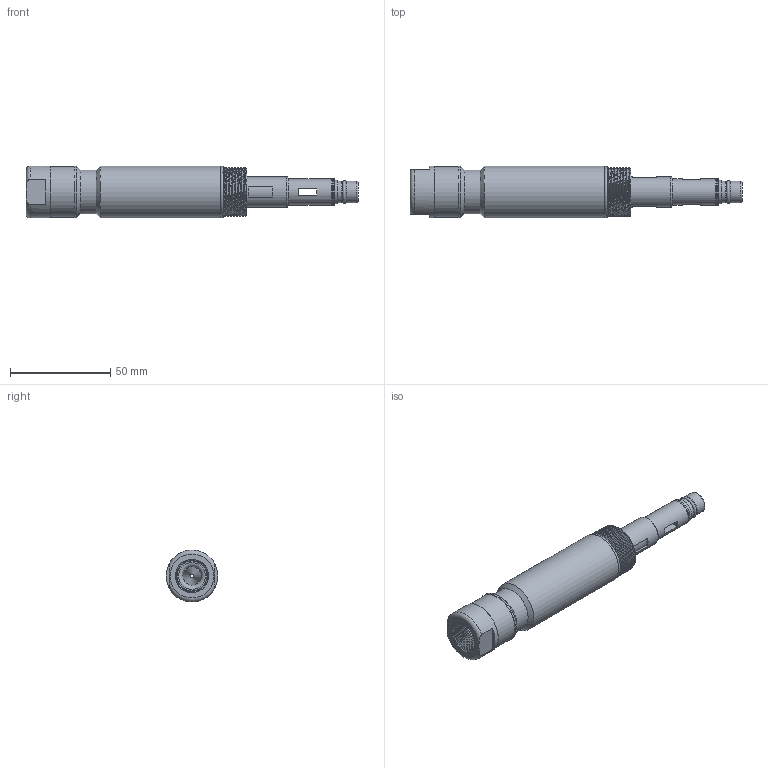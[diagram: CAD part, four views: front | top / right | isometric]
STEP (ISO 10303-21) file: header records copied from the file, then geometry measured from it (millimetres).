
FILE_DESCRIPTION( ( 'STEP AP203' ), '1' );
FILE_NAME( 'D:/撲啗紫賊-02/撲啗紫賊-02/project-06/Vacuum Cartridge-3D/VC303P.stp', '2007-05-25T06:07:58', ( ' ' ), ( ' ' ), 'XStep 1.0', ' ', ' ' );
FILE_SCHEMA( ( 'CONFIG_CONTROL_DESIGN) ( )' ) );
Length unit declared in the file: metre
Products named in the file (2): 1; 2
Bounding box: 165.6 x 25.9 x 25.9 mm (x, y, z)
Volume: 46194.7 mm3; surface area: 25978.7 mm2
Topology: 2 solids, 2 shells, 102 faces, 209 edges, 132 vertices
Faces by surface type: plane 42, cylinder 25, torus 18, cone 10, bspline 7
Full cylindrical faces by diameter (mm): 5.5 x1, 7 x1, 8.5 x2, 9 x1, 9.3 x1, 10.8 x2, 11.9 x1, 12.8 x1, 13 x1, 13.1 x1, 15 x2, 17 x1, 20 x1, 21.9 x1, 24.404 x1, 25.3 x1, 25.9 x3
Entity records: 6348 total; most frequent: CARTESIAN_POINT 4352, DIRECTION 405, ORIENTED_EDGE 310, AXIS2_PLACEMENT_3D 184, EDGE_LOOP 177, EDGE_CURVE 155, FACE_OUTER_BOUND 141, VERTEX_POINT 126
